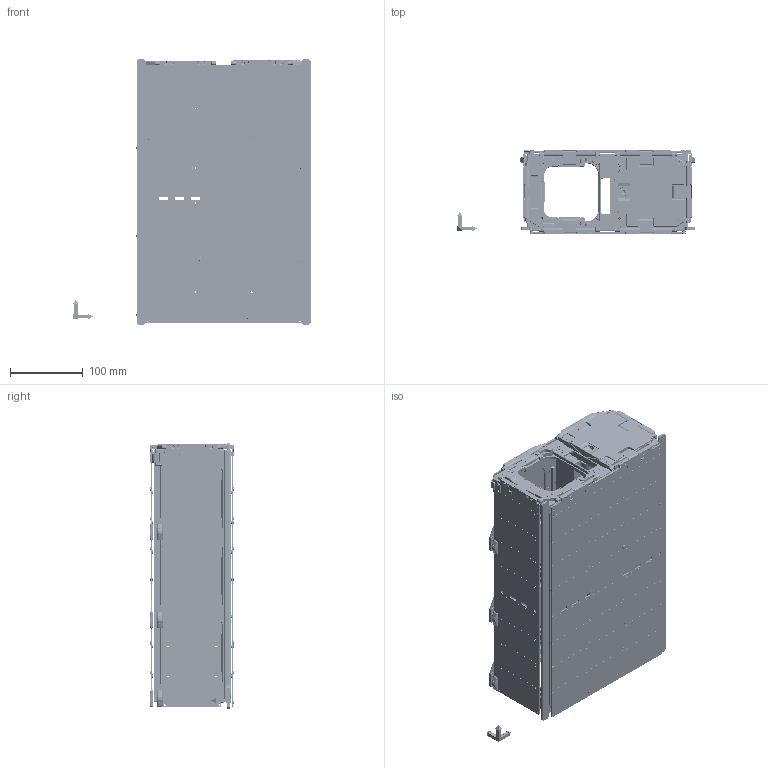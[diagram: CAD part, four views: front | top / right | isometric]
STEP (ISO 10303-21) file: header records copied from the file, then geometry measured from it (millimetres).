
FILE_DESCRIPTION (( 'STEP AP214' ), '1' );
FILE_NAME ('715-01362 SUPERNOVA Assembly Stowed.STEP', '2017-12-13T01:45:25', ( '' ), ( '' ), 'SwSTEP 2.0', 'SolidWorks 2014', '' );
FILE_SCHEMA (( 'AUTOMOTIVE_DESIGN' ));
Length unit declared in the file: inch
Products named in the file (29): PUMPKIN SPACE SYSTEMS SUPERNOVA Structure Assembly; PUMPKIN SPACE SYSTEMS SUPERNOVA End Plate; TRIAD; PUMPKIN SPACE SYSTEMS SUPERNOVA Top Plate; PUMPKIN SPACE SYSTEMS SUPERNOVA Side Plate; SUPERNOVA Solar Hinge Assembly; 710-01269 SUPERNOVA 24 Cell Panel Opt 00; PUMPKIN SPACE SYSTEMS SUPERNOVA Base Plate; 710-01269 SUPERNOVA 24 Cell Panel Opt 01; 715-01362 SUPERNOVA Assembly Stowed; SUPERNOVA Solar Array_Stowed; 710-01270 SUPERNOVA 8 Cell Side Panel Opt 00; SUPERNOVA Solar Hinge Assembly PRM with Cover_Stowed; SUPERNOVA Solar Hinge Assembly_Stowed; 710-01270 SUPERNOVA 8 Cell Side Panel Opt 01; SUPERNOVA Solar Hinge Assembly PRM with Cover; 710-01269 SUPERNOVA 24 Cell Panel Opt 00_Original; SUPERNOVA Bus Stack, BCT Simple; 710-01270 SUPERNOVA 8 Cell Side Panel Opt 00_Original
Assembly tree (16 placements, depth 3):
  PUMPKIN SPACE SYSTEMS SUPERNOVA End Plate
  PUMPKIN SPACE SYSTEMS SUPERNOVA Side Plate
  PUMPKIN SPACE SYSTEMS SUPERNOVA End Plate
  SUPERNOVA Solar Hinge Assembly
  710-01269 SUPERNOVA 24 Cell Panel Opt 00
Bounding box: 326.7 x 116.81 x 365.01 mm (x, y, z)
Volume: 3050685.2 mm3; surface area: 1009117.9 mm2
Topology: 15 solids, 384 shells, 24766 faces, 62599 edges, 39384 vertices
Faces by surface type: plane 11472, cone 5673, cylinder 5037, bspline 2380, torus 142, sphere 62
Entity records: 871379 total; most frequent: CARTESIAN_POINT 240033, ORIENTED_EDGE 114852, DIRECTION 111669, EDGE_CURVE 57426, AXIS2_PLACEMENT_3D 37556, LINE 36557, VECTOR 36557, VERTEX_POINT 36142
